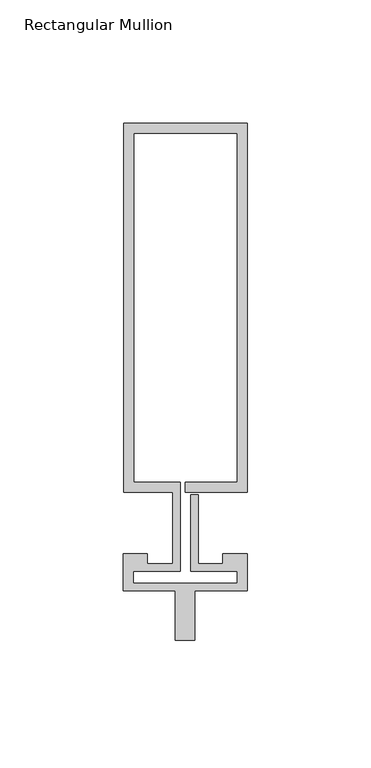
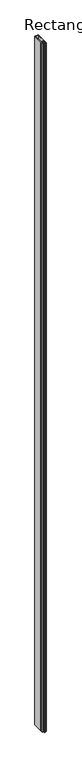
"""IFC4 building model written with IfcOpenShell, lengths in millimetres: member geometry, Rectangular Mullion : Reynaers_CW-50_Mullion-Transom_Vertical_149.5mm_Facecap-06A."""

from ifc_helpers import new_model, si_unit, frame, origin, place, context, project, spatial, polyline, outline, extrude, source, transform, mapped, element, save


def rectangular_mullion_81fc8274(model_context):
    return source(origin(), model_context, "Body", "SweptSolid", [
        extrude(outline(polyline([(-24.8004059, 162.0), (25.1995941, 162.0), (25.1995941, 12.5), (0.0, 12.5), (0.0, 16.5), (21.1995941, 16.5), (21.1995941, 158.0), (-20.8004059, 158.0), (-20.8004059, 16.5), (-1.9004059, 16.5), (-1.9004059, -19.5), (-20.994845, -19.5), (-20.994845, -24.4191338), (21.1995941, -24.4191338), (21.1995941, -19.5), (2.2995941, -19.5), (2.2995941, 11.5), (5.2995941, 11.5), (5.2995941, -16.5), (15.2996495, -16.5), (15.2996495, -12.5), (25.1995941, -12.5), (25.1995941, -27.5), (4.004855, -27.5), (4.004855, -47.5), (-3.995145, -47.5), (-3.995145, -27.5), (-24.994845, -27.5), (-24.994845, -12.5), (-15.2996495, -12.5), (-15.2996495, -16.5), (-4.9004059, -16.5), (-4.9004059, 12.5), (-24.8004059, 12.5), (-24.8004059, 162.0)])), frame((0.0, 0.0, -10400.0), z_axis=(0.0, 0.0, 1.0), x_axis=(1.0, 0.0, 0.0)), (0.0, 0.0, 1.0), 10400.0),
    ])


if __name__ == "__main__":
    model = new_model("IFC4")
    model_context = context("Model", 3, world=origin())
    ifc_project = project(units=[si_unit("LENGTHUNIT", "METRE", prefix="MILLI")], contexts=[model_context])
    site = spatial("IfcSite", under=ifc_project)
    building = spatial("IfcBuilding", under=site)
    placement = place(None, origin())
    rectangular_mullion_shape = rectangular_mullion_81fc8274(model_context)
    element("IfcMember", 1, ObjectType="Rectangular Mullion : Reynaers_CW-50_Mullion-Transom_Vertical_149.5mm_Facecap-06A", at=placement, inside=building, context=model_context, shape_type="MappedRepresentation", body=[
        mapped(rectangular_mullion_shape, transform((0.0, 0.0, 0.0), x_axis=(1.0, 0.0, 0.0), y_axis=(0.0, 1.0, 0.0), z_axis=(0.0, 0.0, 1.0))),
    ])
    save(model, "model.ifc")
